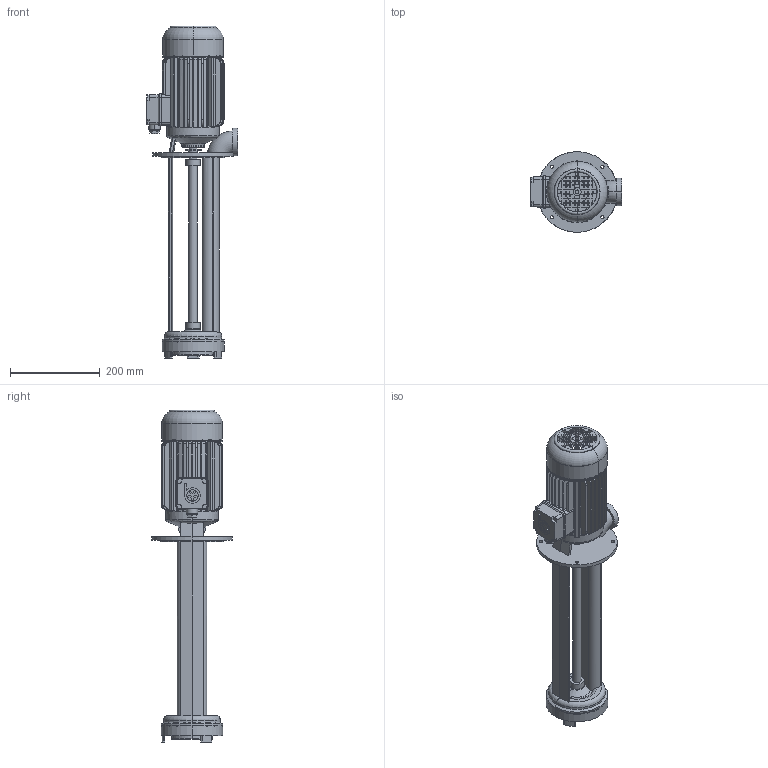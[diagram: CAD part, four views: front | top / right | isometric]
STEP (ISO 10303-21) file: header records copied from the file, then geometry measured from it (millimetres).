
FILE_DESCRIPTION(('no description'),'unknown implementation level');
FILE_NAME('TA600_450_10.stp',' ',('K. H. Brinkmann GmbH & Co. KG'),('CADClick - KiM GmbH - www.kimweb.de'),'unknown preprocess','ACIS','unknown authorization');
FILE_SCHEMA(('automotive_design'));
Length unit declared in the file: millimetre
Products named in the file (5): 1; 2; 3; 4; 5
Bounding box: 205 x 180 x 740.99 mm (x, y, z)
Volume: 4546558 mm3; surface area: 625534.2 mm2
Topology: 5 solids, 5 shells, 899 faces, 2472 edges, 1604 vertices
Faces by surface type: plane 460, cylinder 283, torus 112, cone 42, revolution 2
Entity records: 63583 total; most frequent: CARTESIAN_POINT 12978, STYLED_ITEM 4980, PRESENTATION_STYLE_ASSIGNMENT 4980, COLOUR_RGB 4980, ORIENTED_EDGE 4944, DIRECTION 4639, EDGE_CURVE 2472, CURVE_STYLE 2472
